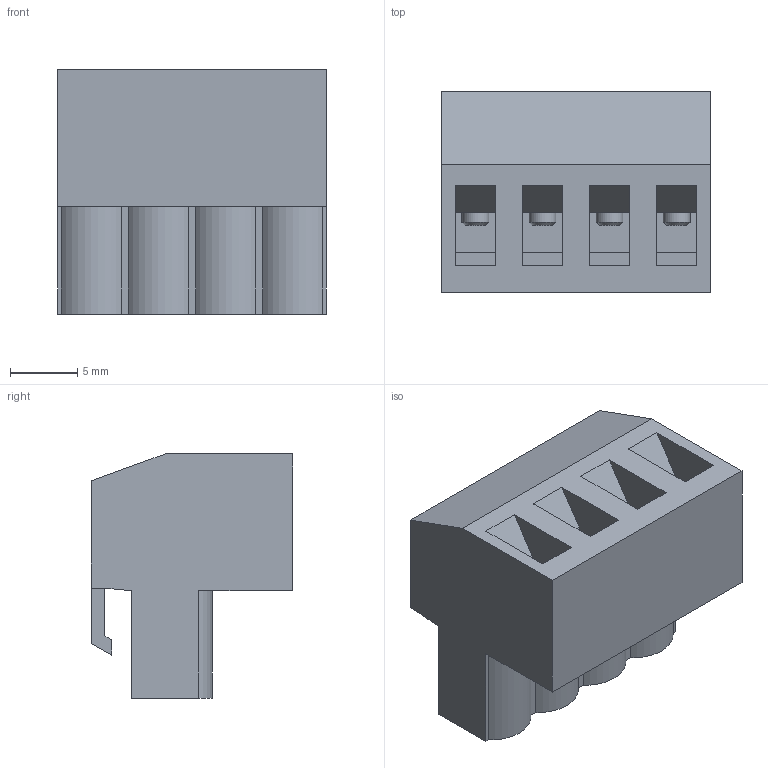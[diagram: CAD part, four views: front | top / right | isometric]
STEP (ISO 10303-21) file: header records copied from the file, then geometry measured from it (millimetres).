
FILE_DESCRIPTION(/* description */ ('STEP AP214'),/* implementation_level */ '2;1');
FILE_NAME(/* name */ 'P_MZ_Z_0433',/* time_stamp */ '2023-03-03T10:40:24+01:00',/* author */ ('License CC BY-ND 4.0'),/* organization */ ('CADENAS'),/* preprocessor_version */ 'ST-DEVELOPER v18.102',/* originating_system */ 'PARTsolutions',/* authorisation */ ' ');
FILE_SCHEMA (('AUTOMOTIVE_DESIGN {1 0 10303 214 3 1 1}'));
Length unit declared in the file: millimetre
Products named in the file (1): P_MZ_Z_0433
Bounding box: 20 x 15 x 18.2 mm (x, y, z)
Volume: 3294.9 mm3; surface area: 2619.4 mm2
Topology: 1 solids, 1 shells, 142 faces, 336 edges, 216 vertices
Faces by surface type: plane 102, cylinder 24, torus 8, cone 8
Full cylindrical faces by diameter (mm): 2 x4, 2.4 x4, 3.4 x4, 4 x4
Entity records: 4886 total; most frequent: CARTESIAN_POINT 703, DIRECTION 650, ORIENTED_EDGE 608, EDGE_CURVE 304, AXIS2_PLACEMENT_3D 219, LINE 212, VECTOR 212, VERTEX_POINT 208
